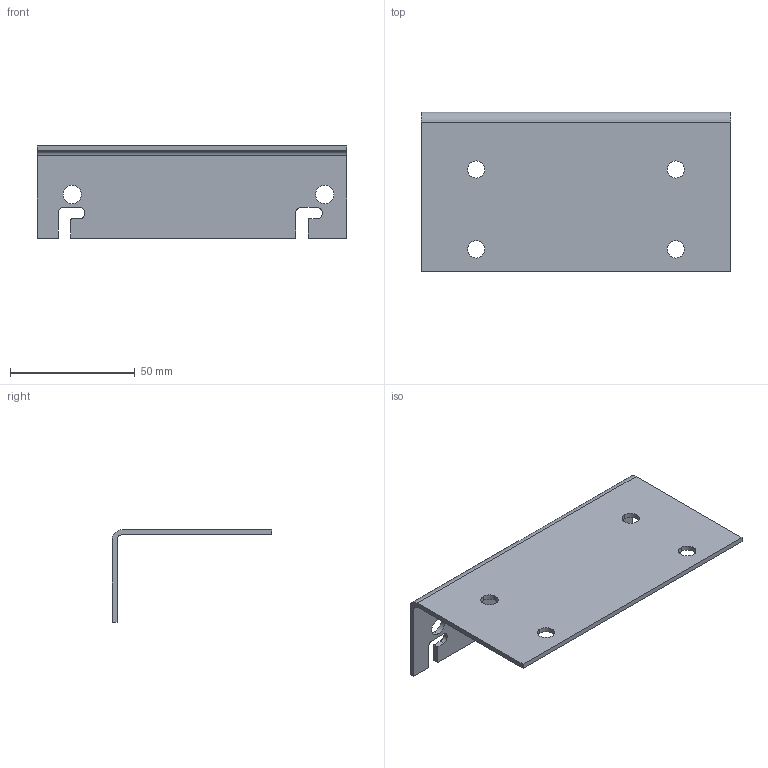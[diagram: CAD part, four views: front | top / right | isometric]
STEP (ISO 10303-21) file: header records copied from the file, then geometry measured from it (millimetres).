
FILE_DESCRIPTION (( 'STEP AP214' ), '1' );
FILE_NAME ('Sensotronic-Netzteilhalterung_Unterbodenmontage.STEP', '2010-10-15T09:32:57', ( 'grass' ), ( '' ), 'SwSTEP 2.0', 'SolidWorks 2010', '' );
FILE_SCHEMA (( 'AUTOMOTIVE_DESIGN' ));
Length unit declared in the file: millimetre
Products named in the file (1): Sensotronic-Netzteilhalterung_Unterbodenmontage
Bounding box: 124 x 64 x 37 mm (x, y, z)
Volume: 23429.2 mm3; surface area: 24712.9 mm2
Topology: 1 solids, 1 shells, 42 faces, 120 edges, 80 vertices
Faces by surface type: cylinder 22, plane 20
Entity records: 1446 total; most frequent: DIRECTION 250, CARTESIAN_POINT 243, ORIENTED_EDGE 240, EDGE_CURVE 120, AXIS2_PLACEMENT_3D 87, VERTEX_POINT 80, VECTOR 76, LINE 76
